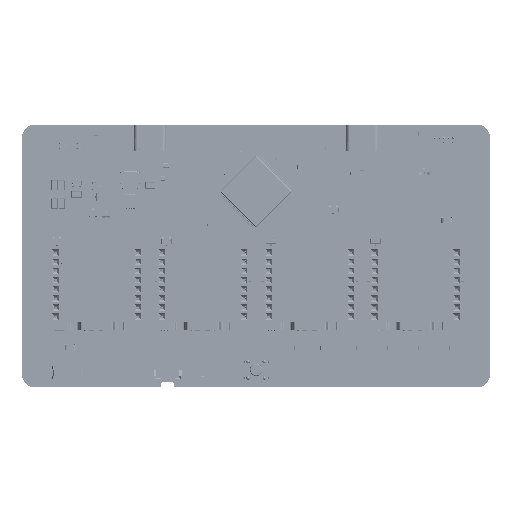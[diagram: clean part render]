
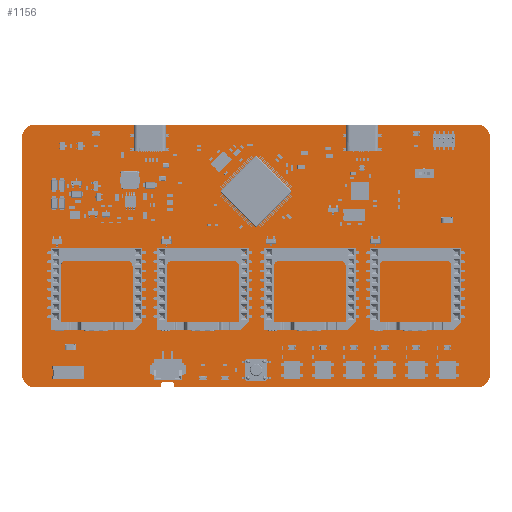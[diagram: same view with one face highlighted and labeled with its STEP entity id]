
A CAD part, top view. The second image highlights one B-rep face of the part: STEP entity #1156.
In plain terms, the highlighted planar face has unit normal (0, 0, 1).
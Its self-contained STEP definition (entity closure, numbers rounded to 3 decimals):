
#627 = VERTEX_POINT('',#628);
#628 = CARTESIAN_POINT('',(-4.959,-8.5,0.));
#634 = EDGE_CURVE('',#627,#635,#637,.T.);
#635 = VERTEX_POINT('',#636);
#636 = CARTESIAN_POINT('',(29.704,-8.5,0.));
#637 = LINE('',#638,#639);
#638 = CARTESIAN_POINT('',(-4.959,-8.5,0.));
#639 = VECTOR('',#640,1.);
#640 = DIRECTION('',(1.,0.,0.));
#665 = EDGE_CURVE('',#635,#666,#668,.T.);
#666 = VERTEX_POINT('',#667);
#667 = CARTESIAN_POINT('',(30.212,-7.992,0.));
#668 = CIRCLE('',#669,0.509);
#669 = AXIS2_PLACEMENT_3D('',#670,#671,#672);
#670 = CARTESIAN_POINT('',(29.703,-7.991,0.));
#671 = DIRECTION('',(0.,0.,1.));
#672 = DIRECTION('',(0.001,-1.,0.));
#698 = EDGE_CURVE('',#666,#699,#701,.T.);
#699 = VERTEX_POINT('',#700);
#700 = CARTESIAN_POINT('',(30.212,-7.484,0.));
#701 = LINE('',#702,#703);
#702 = CARTESIAN_POINT('',(30.212,-7.992,0.));
#703 = VECTOR('',#704,1.);
#704 = DIRECTION('',(0.,1.,0.));
#729 = EDGE_CURVE('',#699,#730,#732,.T.);
#730 = VERTEX_POINT('',#731);
#731 = CARTESIAN_POINT('',(30.72,-6.976,0.));
#732 = CIRCLE('',#733,0.509);
#733 = AXIS2_PLACEMENT_3D('',#734,#735,#736);
#734 = CARTESIAN_POINT('',(30.721,-7.485,0.));
#735 = DIRECTION('',(0.,0.,-1.));
#736 = DIRECTION('',(-1.,0.001,0.));
#762 = EDGE_CURVE('',#730,#763,#765,.T.);
#763 = VERTEX_POINT('',#764);
#764 = CARTESIAN_POINT('',(33.209,-6.976,0.));
#765 = LINE('',#766,#767);
#766 = CARTESIAN_POINT('',(30.72,-6.976,0.));
#767 = VECTOR('',#768,1.);
#768 = DIRECTION('',(1.,0.,0.));
#793 = EDGE_CURVE('',#763,#794,#796,.T.);
#794 = VERTEX_POINT('',#795);
#795 = CARTESIAN_POINT('',(33.717,-7.484,0.));
#796 = CIRCLE('',#797,0.509);
#797 = AXIS2_PLACEMENT_3D('',#798,#799,#800);
#798 = CARTESIAN_POINT('',(33.208,-7.485,0.));
#799 = DIRECTION('',(0.,0.,-1.));
#800 = DIRECTION('',(0.001,1.,0.));
#826 = EDGE_CURVE('',#794,#827,#829,.T.);
#827 = VERTEX_POINT('',#828);
#828 = CARTESIAN_POINT('',(33.717,-7.992,0.));
#829 = LINE('',#830,#831);
#830 = CARTESIAN_POINT('',(33.717,-7.484,0.));
#831 = VECTOR('',#832,1.);
#832 = DIRECTION('',(0.,-1.,0.));
#857 = EDGE_CURVE('',#827,#858,#860,.T.);
#858 = VERTEX_POINT('',#859);
#859 = CARTESIAN_POINT('',(34.225,-8.5,0.));
#860 = CIRCLE('',#861,0.509);
#861 = AXIS2_PLACEMENT_3D('',#862,#863,#864);
#862 = CARTESIAN_POINT('',(34.226,-7.991,0.));
#863 = DIRECTION('',(0.,0.,1.));
#864 = DIRECTION('',(-1.,-0.001,0.));
#890 = EDGE_CURVE('',#858,#891,#893,.T.);
#891 = VERTEX_POINT('',#892);
#892 = CARTESIAN_POINT('',(117.835,-8.501,0.));
#893 = LINE('',#894,#895);
#894 = CARTESIAN_POINT('',(34.225,-8.5,0.));
#895 = VECTOR('',#896,1.);
#896 = DIRECTION('',(1.,0.,0.));
#921 = EDGE_CURVE('',#891,#922,#924,.T.);
#922 = VERTEX_POINT('',#923);
#923 = CARTESIAN_POINT('',(121.501,-4.96,0.));
#924 = CIRCLE('',#925,3.648);
#925 = AXIS2_PLACEMENT_3D('',#926,#927,#928);
#926 = CARTESIAN_POINT('',(117.855,-4.853,0.));
#927 = DIRECTION('',(0.,0.,1.));
#928 = DIRECTION('',(-0.005,-1.,0.));
#954 = EDGE_CURVE('',#922,#955,#957,.T.);
#955 = VERTEX_POINT('',#956);
#956 = CARTESIAN_POINT('',(121.501,60.834,0.));
#957 = LINE('',#958,#959);
#958 = CARTESIAN_POINT('',(121.501,-4.96,0.));
#959 = VECTOR('',#960,1.);
#960 = DIRECTION('',(0.,1.,0.));
#985 = EDGE_CURVE('',#955,#986,#988,.T.);
#986 = VERTEX_POINT('',#987);
#987 = CARTESIAN_POINT('',(117.961,64.501,0.));
#988 = CIRCLE('',#989,3.648);
#989 = AXIS2_PLACEMENT_3D('',#990,#991,#992);
#990 = CARTESIAN_POINT('',(117.853,60.855,0.));
#991 = DIRECTION('',(0.,0.,1.));
#992 = DIRECTION('',(1.,-0.006,0.));
#1018 = EDGE_CURVE('',#986,#1019,#1021,.T.);
#1019 = VERTEX_POINT('',#1020);
#1020 = CARTESIAN_POINT('',(-4.832,64.494,0.));
#1021 = LINE('',#1022,#1023);
#1022 = CARTESIAN_POINT('',(117.961,64.501,0.));
#1023 = VECTOR('',#1024,1.);
#1024 = DIRECTION('',(-1.,0.,0.));
#1049 = EDGE_CURVE('',#1019,#1050,#1052,.T.);
#1050 = VERTEX_POINT('',#1051);
#1051 = CARTESIAN_POINT('',(-8.499,60.953,0.));
#1052 = CIRCLE('',#1053,3.648);
#1053 = AXIS2_PLACEMENT_3D('',#1054,#1055,#1056);
#1054 = CARTESIAN_POINT('',(-4.853,60.846,0.));
#1055 = DIRECTION('',(0.,0.,1.));
#1056 = DIRECTION('',(0.006,1.,0.));
#1082 = EDGE_CURVE('',#1050,#1083,#1085,.T.);
#1083 = VERTEX_POINT('',#1084);
#1084 = CARTESIAN_POINT('',(-8.5,-4.833,0.));
#1085 = LINE('',#1086,#1087);
#1086 = CARTESIAN_POINT('',(-8.499,60.953,0.));
#1087 = VECTOR('',#1088,1.);
#1088 = DIRECTION('',(0.,-1.,0.));
#1113 = EDGE_CURVE('',#1083,#627,#1114,.T.);
#1114 = CIRCLE('',#1115,3.648);
#1115 = AXIS2_PLACEMENT_3D('',#1116,#1117,#1118);
#1116 = CARTESIAN_POINT('',(-4.852,-4.854,0.));
#1117 = DIRECTION('',(0.,0.,1.));
#1118 = DIRECTION('',(-1.,0.006,0.));
#1156 = ADVANCED_FACE('',(#1157),#1175,.F.);
#1157 = FACE_BOUND('',#1158,.T.);
#1158 = EDGE_LOOP('',(#1159,#1160,#1161,#1162,#1163,#1164,#1165,#1166,
    #1167,#1168,#1169,#1170,#1171,#1172,#1173,#1174));
#1159 = ORIENTED_EDGE('',*,*,#634,.T.);
#1160 = ORIENTED_EDGE('',*,*,#665,.T.);
#1161 = ORIENTED_EDGE('',*,*,#698,.T.);
#1162 = ORIENTED_EDGE('',*,*,#729,.T.);
#1163 = ORIENTED_EDGE('',*,*,#762,.T.);
#1164 = ORIENTED_EDGE('',*,*,#793,.T.);
#1165 = ORIENTED_EDGE('',*,*,#826,.T.);
#1166 = ORIENTED_EDGE('',*,*,#857,.T.);
#1167 = ORIENTED_EDGE('',*,*,#890,.T.);
#1168 = ORIENTED_EDGE('',*,*,#921,.T.);
#1169 = ORIENTED_EDGE('',*,*,#954,.T.);
#1170 = ORIENTED_EDGE('',*,*,#985,.T.);
#1171 = ORIENTED_EDGE('',*,*,#1018,.T.);
#1172 = ORIENTED_EDGE('',*,*,#1049,.T.);
#1173 = ORIENTED_EDGE('',*,*,#1082,.T.);
#1174 = ORIENTED_EDGE('',*,*,#1113,.T.);
#1175 = PLANE('',#1176);
#1176 = AXIS2_PLACEMENT_3D('',#1177,#1178,#1179);
#1177 = CARTESIAN_POINT('',(-4.959,-8.5,0.));
#1178 = DIRECTION('',(0.,0.,-1.));
#1179 = DIRECTION('',(-1.,0.,0.));
